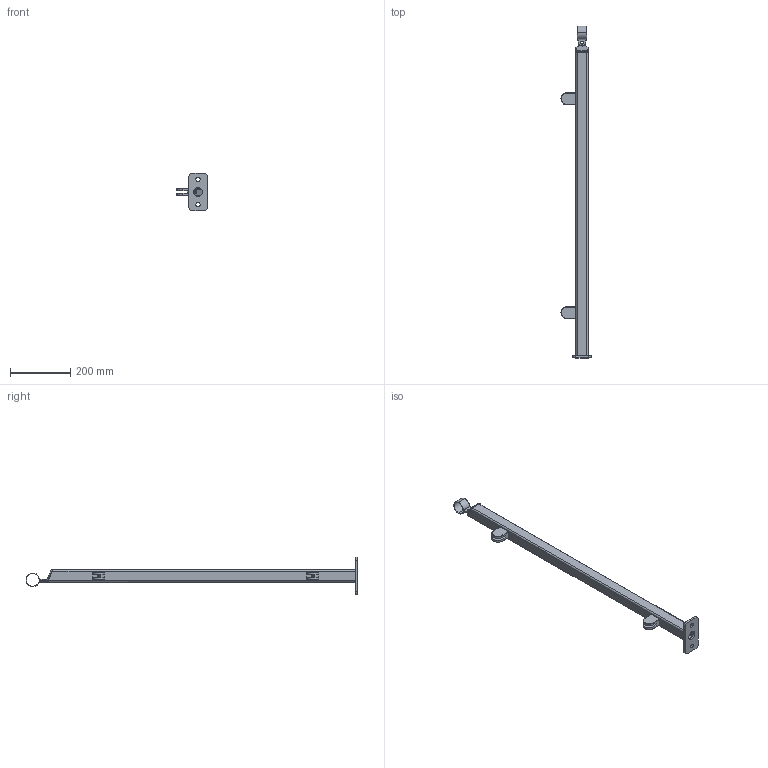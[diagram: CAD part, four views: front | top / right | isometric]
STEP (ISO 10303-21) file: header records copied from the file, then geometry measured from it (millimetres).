
FILE_DESCRIPTION (( 'STEP AP203' ), '1' );
FILE_NAME ('Ståndare KKR 40x40x3 toppmontage glas höger.STEP', '2014-09-26T06:32:49', ( '' ), ( '' ), 'SwSTEP 2.0', 'SolidWorks 2014', '' );
FILE_SCHEMA (( 'CONFIG_CONTROL_DESIGN' ));
Length unit declared in the file: millimetre
Products named in the file (1): Ståndare KKR 40x40x3 toppmontage glas höger
Bounding box: 99.9 x 1101.5 x 126 mm (x, y, z)
Volume: 566494.3 mm3; surface area: 344716.3 mm2
Topology: 2 solids, 4 shells, 296 faces, 745 edges, 462 vertices
Faces by surface type: plane 136, cylinder 128, torus 16, cone 12, bspline 4
Entity records: 9036 total; most frequent: CARTESIAN_POINT 1826, DIRECTION 1533, ORIENTED_EDGE 1482, EDGE_CURVE 741, AXIS2_PLACEMENT_3D 553, VERTEX_POINT 462, VECTOR 427, LINE 427
